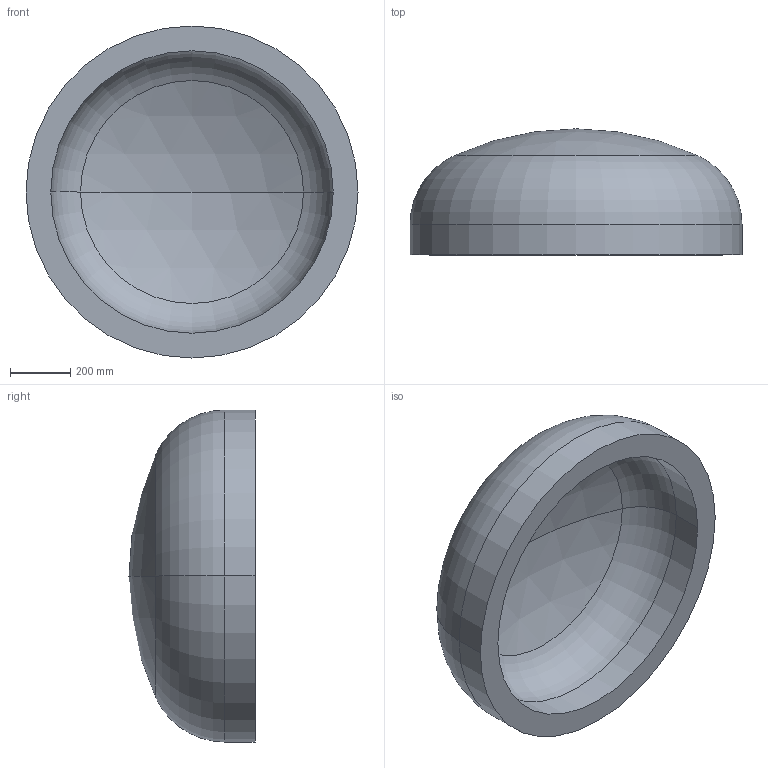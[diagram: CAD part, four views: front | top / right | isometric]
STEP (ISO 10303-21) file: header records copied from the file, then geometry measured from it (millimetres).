
FILE_DESCRIPTION (( 'STEP AP203' ), '1' );
FILE_NAME ('DIN 28013 Korbbogenform_-_Boden DIN 28013 - 1100 x 100 - I - s=82.step', '2016-07-01T09:13:44', ( '' ), ( '' ), 'SwSTEP 2.0', 'SolidWorks 2013', '' );
FILE_SCHEMA (( 'CONFIG_CONTROL_DESIGN' ));
Length unit declared in the file: millimetre
Products named in the file (1): DIN 28013 Korbbogenform_-_Boden DIN 28013 - 1100 x 100 - I - s=82
Bounding box: 1100 x 417.57 x 1100 mm (x, y, z)
Volume: 124547069.7 mm3; surface area: 3314063.1 mm2
Topology: 1 solids, 1 shells, 13 faces, 24 edges, 14 vertices
Faces by surface type: torus 4, cylinder 4, sphere 4, plane 1
Entity records: 407 total; most frequent: DIRECTION 72, CARTESIAN_POINT 52, ORIENTED_EDGE 48, AXIS2_PLACEMENT_3D 34, EDGE_CURVE 24, CIRCLE 20, EDGE_LOOP 14, VERTEX_POINT 14
